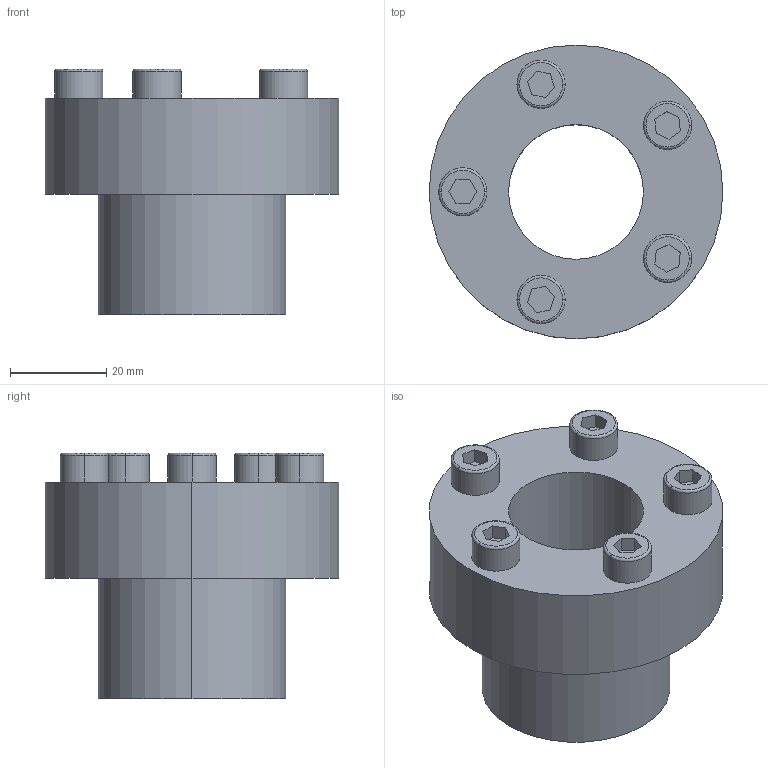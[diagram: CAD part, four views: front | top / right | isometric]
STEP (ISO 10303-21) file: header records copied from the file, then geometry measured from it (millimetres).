
FILE_DESCRIPTION (( 'STEP AP203' ), '1' );
FILE_NAME ('PL-C 28-39.STEP', '2021-10-22T08:39:27', ( '' ), ( '' ), 'SwSTEP 2.0', 'SolidWorks 2018', '' );
FILE_SCHEMA (( 'CONFIG_CONTROL_DESIGN' ));
Length unit declared in the file: millimetre
Products named in the file (1): PL-C 28-39
Bounding box: 61 x 61 x 51 mm (x, y, z)
Volume: 62628.4 mm3; surface area: 16635.7 mm2
Topology: 1 solids, 1 shells, 69 faces, 158 edges, 102 vertices
Faces by surface type: plane 43, cylinder 16, torus 10
Entity records: 2025 total; most frequent: DIRECTION 350, CARTESIAN_POINT 330, ORIENTED_EDGE 316, EDGE_CURVE 158, AXIS2_PLACEMENT_3D 122, VECTOR 106, LINE 106, VERTEX_POINT 102
